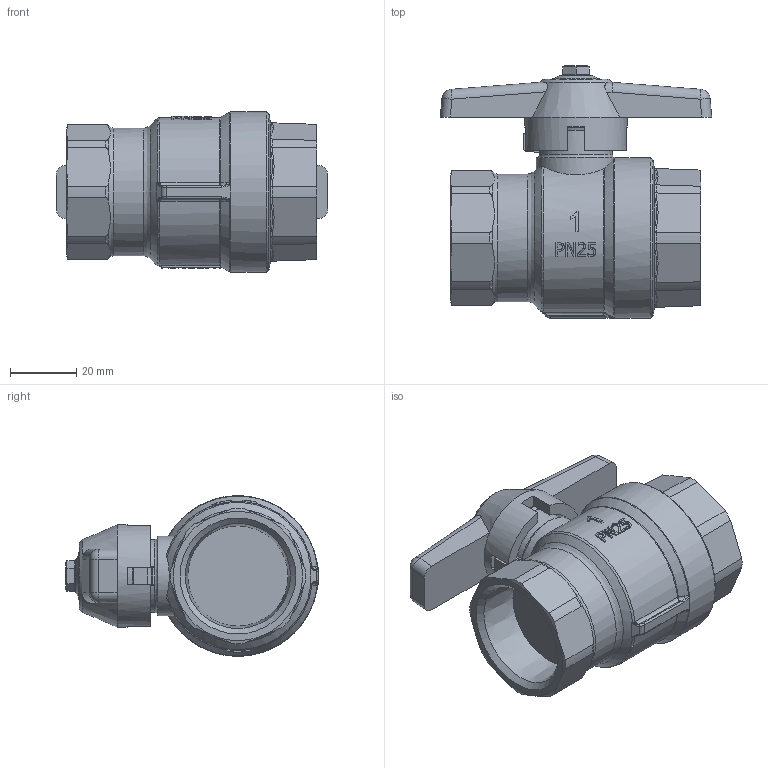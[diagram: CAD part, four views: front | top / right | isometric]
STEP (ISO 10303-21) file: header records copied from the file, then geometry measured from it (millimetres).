
FILE_DESCRIPTION((''),'2;1');
FILE_NAME('P:\Fastrack\53972_CRANE 3D\Ball Valves\Workplace\Crane Ball Valves\D171TH_1in\D171TH_1in.stp','2011-02-14T16:53:41',('btaylor'),(''),'Autodesk Inventor 2008','Autodesk Inventor 2008','');
FILE_SCHEMA(('AUTOMOTIVE_DESIGN { 1 0 10303 214 1 1 1 1 }'));
Length unit declared in the file: millimetre
Products named in the file (1): D171TH_1in
Bounding box: 82 x 76.25 x 48.5 mm (x, y, z)
Volume: 112973.4 mm3; surface area: 22197 mm2
Topology: 2 solids, 2 shells, 430 faces, 1127 edges, 718 vertices
Faces by surface type: plane 173, bspline 127, cylinder 69, cone 41, torus 16, sphere 4
Full cylindrical faces by diameter (mm): 14.2 x1, 23.5 x1, 23.96 x1, 31 x1, 38.5 x1, 48.5 x1
Entity records: 36660 total; most frequent: CARTESIAN_POINT 26792, ORIENTED_EDGE 2196, DIRECTION 1555, EDGE_CURVE 1098, VERTEX_POINT 712, AXIS2_PLACEMENT_3D 579, EDGE_LOOP 470, STYLED_ITEM 432
